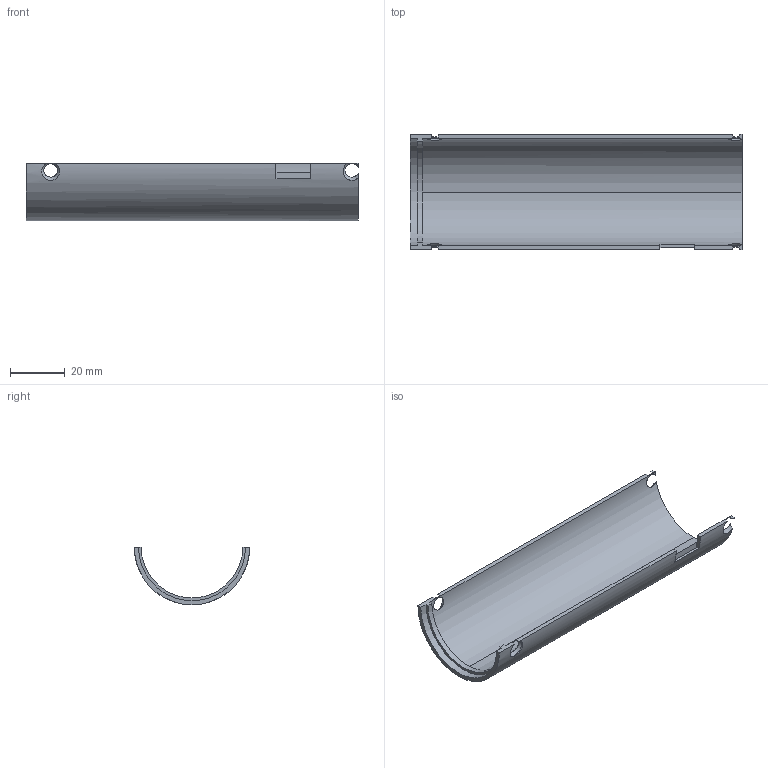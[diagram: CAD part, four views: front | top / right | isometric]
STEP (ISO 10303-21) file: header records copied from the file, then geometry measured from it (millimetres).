
FILE_DESCRIPTION(('Open CASCADE Model'),'2;1');
FILE_NAME('Open CASCADE Shape Model','2026-11-07T04:41:25',('Author'),( 'Open CASCADE'),'Open CASCADE STEP processor 8.0','build123d', 'Unknown');
FILE_SCHEMA(('AUTOMOTIVE_DESIGN { 1 0 10303 214 1 1 1 1 }'));
Length unit declared in the file: millimetre
Products named in the file (1): COMPOUND
Bounding box: 120.97 x 42 x 21 mm (x, y, z)
Volume: 11397.8 mm3; surface area: 15861.5 mm2
Topology: 1 solids, 1 shells, 30 faces, 92 edges, 62 vertices
Faces by surface type: cylinder 13, plane 13, cone 4
Entity records: 5471 total; most frequent: CARTESIAN_POINT 3817, DIRECTION 257, ORIENTED_EDGE 184, PCURVE 184, DEFINITIONAL_REPRESENTATION 184, B_SPLINE_CURVE_WITH_KNOTS 112, LINE 99, VECTOR 99
